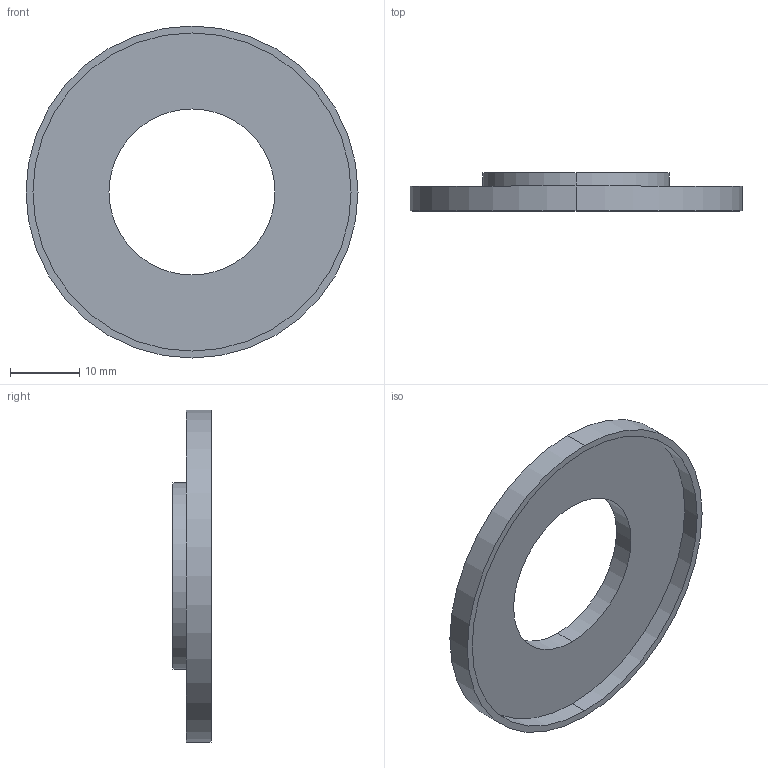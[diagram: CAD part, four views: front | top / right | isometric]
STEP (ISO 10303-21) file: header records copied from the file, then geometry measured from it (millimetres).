
FILE_DESCRIPTION (( 'STEP AP214' ), '1' );
FILE_NAME ('SU27-46.STEP', '2019-04-03T14:54:51', ( '' ), ( '' ), 'SwSTEP 2.0', 'SolidWorks 2019', '' );
FILE_SCHEMA (( 'AUTOMOTIVE_DESIGN' ));
Length unit declared in the file: millimetre
Products named in the file (1): SU27-46
Bounding box: 48 x 5.5 x 48 mm (x, y, z)
Volume: 2004.8 mm3; surface area: 4006.6 mm2
Topology: 1 solids, 1 shells, 12 faces, 24 edges, 16 vertices
Faces by surface type: cylinder 8, plane 4
Entity records: 362 total; most frequent: DIRECTION 66, CARTESIAN_POINT 53, ORIENTED_EDGE 48, AXIS2_PLACEMENT_3D 29, EDGE_CURVE 24, CIRCLE 16, EDGE_LOOP 16, VERTEX_POINT 16
